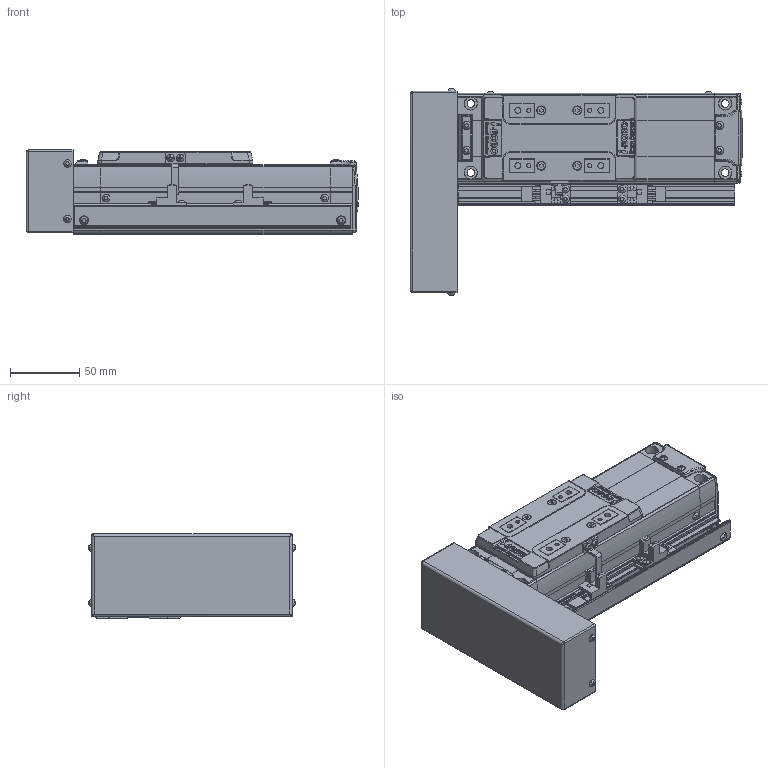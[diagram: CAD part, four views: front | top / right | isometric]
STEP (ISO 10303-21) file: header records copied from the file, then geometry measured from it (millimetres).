
FILE_DESCRIPTION(('STEP AP214'),'1');
FILE_NAME('Z:/Web/3D/SAN65/STP/SAN65ㅁㅁ-050PR+2SR.stp','2012-06-14T00:18:43',(' '),(' '),'Spatial InterOp 3D',' ',' ');
FILE_SCHEMA(('automotive_design'));
Length unit declared in the file: metre
Products named in the file (52): SAN65__-050; BODY-SAN65; REAR-SAN65; RRCV-SAN65; 스크루 : Round - M3.0 x 6.0; FRONT-SAN65; SHAFT-SAN65; RN8 x 0.75; SSFX-SAN65; SLIDE-SAN65; SLCV-SAN65; 스크루 : Countersunk - M3.0 x 6.0; ____206; PR; BTCV-SAN65; BHCS M3 X 6L; 2SR; SRL-16x17-450L; - OT; EE-SX674; SBK-SX674-352; + OT; DOG; SDG-SAN65; 스크루 : Round - M3.0 x 5.0
Assembly tree (51 placements, depth 4):
  ____206
    SAN65__-050
      BODY-SAN65
      REAR-SAN65
        REAR-SAN65
        RRCV-SAN65
        스크루 : Round - M3.0 x 6.0
        스크루 : Round - M3.0 x 6.0
        스크루 : Round - M3.0 x 6.0
        스크루 : Round - M3.0 x 6.0
        스크루 : Round - M3.0 x 6.0
        스크루 : Round - M3.0 x 6.0
      FRONT-SAN65
        FRONT-SAN65
        SHAFT-SAN65
        RN8 x 0.75
        SSFX-SAN65
        스크루 : Round - M3.0 x 6.0
        스크루 : Round - M3.0 x 6.0
        스크루 : Round - M3.0 x 6.0
        스크루 : Round - M3.0 x 6.0
      SLIDE-SAN65
        SLIDE-SAN65
        SLCV-SAN65
        스크루 : Countersunk - M3.0 x 6.0
        스크루 : Countersunk - M3.0 x 6.0
        스크루 : Countersunk - M3.0 x 6.0
        스크루 : Countersunk - M3.0 x 6.0
    PR
      BTCV-SAN65
      BHCS M3 X 6L
      BHCS M3 X 6L
      BHCS M3 X 6L
      BHCS M3 X 6L
    2SR
      SRL-16x17-450L
      스크루 : Round - M3.0 x 6.0
      스크루 : Round - M3.0 x 6.0
      - OT
        EE-SX674
        SBK-SX674-352
        스크루 : Round - M3.0 x 6.0
        스크루 : Round - M3.0 x 6.0
      + OT
        EE-SX674
        SBK-SX674-352
        스크루 : Round - M3.0 x 6.0
        스크루 : Round - M3.0 x 6.0
      DOG
        SDG-SAN65
        스크루 : Round - M3.0 x 5.0
        스크루 : Round - M3.0 x 5.0
Bounding box: 240.15 x 149.13 x 61 mm (x, y, z)
Volume: 985974 mm3; surface area: 183397.4 mm2
Topology: 42 solids, 42 shells, 1822 faces, 4654 edges, 3034 vertices
Faces by surface type: plane 1203, cylinder 460, cone 77, sphere 34, bspline 30, torus 15, extrusion 3
Full cylindrical faces by diameter (mm): 0.571 x2, 0.706 x1, 1.727 x2, 2.132 x1, 2.2 x4, 2.5 x13, 2.528 x4, 3 x6, 3.121 x2, 3.3 x4, 3.4 x8, 3.5 x12, 4.2 x14, 4.849 x4, 5 x3, 5.5 x4, 5.987 x2, 6 x6, 6.35 x1, 6.5 x2, 7 x1, 8 x4, 9.5 x4, 13 x1, 15 x1, 19 x1, 26 x1, 38.1 x1
Entity records: 73934 total; most frequent: CARTESIAN_POINT 14336, DIRECTION 9171, ORIENTED_EDGE 8744, EDGE_CURVE 4372, VECTOR 3069, LINE 3066, AXIS2_PLACEMENT_3D 3051, VERTEX_POINT 2976
